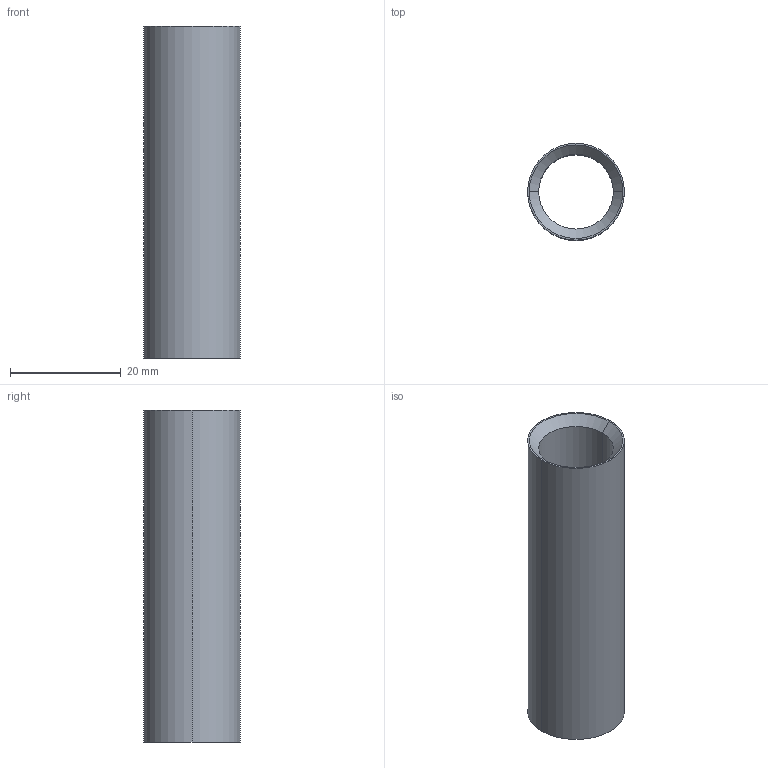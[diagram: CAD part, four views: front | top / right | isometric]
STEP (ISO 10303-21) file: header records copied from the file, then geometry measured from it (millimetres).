
FILE_DESCRIPTION (( 'STEP AP214' ), '1' );
FILE_NAME ('OptiKit C-GTY-95.STEP', '2020-05-19T08:36:58', ( '' ), ( '' ), 'SwSTEP 2.0', 'SolidWorks 2018', '' );
FILE_SCHEMA (( 'AUTOMOTIVE_DESIGN' ));
Length unit declared in the file: millimetre
Products named in the file (1): OptiKit  C-GTY-95
Bounding box: 17.5 x 17.5 x 60 mm (x, y, z)
Volume: 5710.5 mm3; surface area: 5961.2 mm2
Topology: 1 solids, 1 shells, 10 faces, 20 edges, 12 vertices
Faces by surface type: cone 4, cylinder 4, plane 2
Entity records: 302 total; most frequent: DIRECTION 54, CARTESIAN_POINT 43, ORIENTED_EDGE 40, AXIS2_PLACEMENT_3D 23, EDGE_CURVE 20, VERTEX_POINT 12, CIRCLE 12, EDGE_LOOP 12
